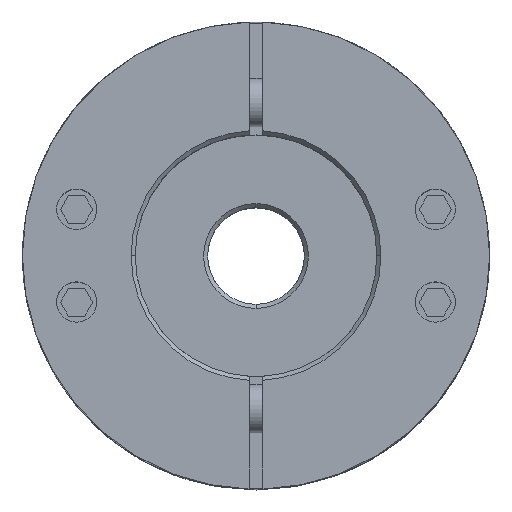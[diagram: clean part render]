
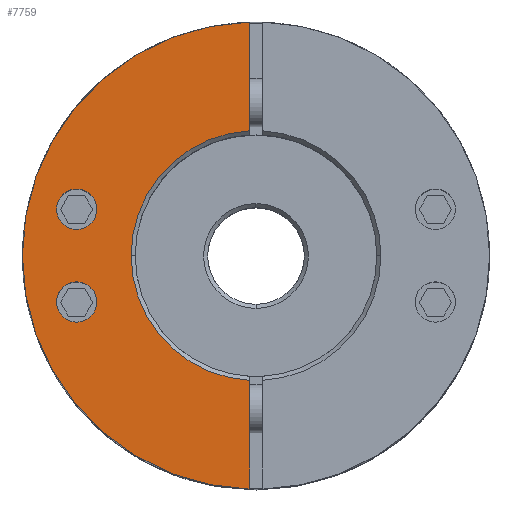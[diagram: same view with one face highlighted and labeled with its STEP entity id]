
A CAD part, top view. The second image highlights one B-rep face of the part: STEP entity #7759.
In plain terms, the highlighted planar face has unit normal (0, 0, 1).
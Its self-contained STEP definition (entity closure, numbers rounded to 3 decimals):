
#4373=CARTESIAN_POINT('',(-19.767,-5.759,27.125));
#4374=VERTEX_POINT('',#4373);
#4383=CARTESIAN_POINT('',(-24.767,-5.759,27.125));
#4384=VERTEX_POINT('',#4383);
#4385=CARTESIAN_POINT('',(-22.267,-5.759,27.125));
#4386=DIRECTION('',(0.0,0.0,-1.0));
#4387=DIRECTION('',(1.0,0.0,0.0));
#4388=AXIS2_PLACEMENT_3D('',#4385,#4386,#4387);
#4389=CIRCLE('',#4388,2.5);
#4390=EDGE_CURVE('',#4384,#4374,#4389,.T.);
#4499=CARTESIAN_POINT('',(-19.767,5.759,27.125));
#4500=VERTEX_POINT('',#4499);
#4509=CARTESIAN_POINT('',(-24.767,5.759,27.125));
#4510=VERTEX_POINT('',#4509);
#4511=CARTESIAN_POINT('',(-22.267,5.759,27.125));
#4512=DIRECTION('',(0.0,0.0,-1.0));
#4513=DIRECTION('',(1.0,0.0,0.0));
#4514=AXIS2_PLACEMENT_3D('',#4511,#4512,#4513);
#4515=CIRCLE('',#4514,2.5);
#4516=EDGE_CURVE('',#4510,#4500,#4515,.T.);
#4728=CARTESIAN_POINT('',(-29.0,0.,27.125));
#4729=VERTEX_POINT('',#4728);
#4736=CARTESIAN_POINT('',(-0.75,28.99,27.125));
#4737=VERTEX_POINT('',#4736);
#4738=CARTESIAN_POINT('',(0.0,0.0,27.125));
#4739=DIRECTION('',(0.0,0.0,-1.0));
#4740=DIRECTION('',(1.0,0.0,0.0));
#4741=AXIS2_PLACEMENT_3D('',#4738,#4739,#4740);
#4742=CIRCLE('',#4741,29.0);
#4743=EDGE_CURVE('',#4729,#4737,#4742,.T.);
#5090=CARTESIAN_POINT('',(-15.5,0.,27.125));
#5091=VERTEX_POINT('',#5090);
#5107=CARTESIAN_POINT('',(-0.75,15.482,27.125));
#5108=VERTEX_POINT('',#5107);
#5122=CARTESIAN_POINT('',(0.0,0.0,27.125));
#5123=DIRECTION('',(0.0,0.0,1.0));
#5124=DIRECTION('',(-1.0,0.0,0.0));
#5125=AXIS2_PLACEMENT_3D('',#5122,#5123,#5124);
#5126=CIRCLE('',#5125,15.5);
#5127=EDGE_CURVE('',#5108,#5091,#5126,.T.);
#7512=CARTESIAN_POINT('',(-0.75,-15.482,27.125));
#7513=VERTEX_POINT('',#7512);
#7514=CARTESIAN_POINT('',(0.0,0.0,27.125));
#7515=DIRECTION('',(0.0,0.0,1.0));
#7516=DIRECTION('',(-1.0,0.0,0.0));
#7517=AXIS2_PLACEMENT_3D('',#7514,#7515,#7516);
#7518=CIRCLE('',#7517,15.5);
#7519=EDGE_CURVE('',#5091,#7513,#7518,.T.);
#7552=CARTESIAN_POINT('',(-0.75,15.482,27.125));
#7553=DIRECTION('',(0.0,1.0,0.0));
#7554=VECTOR('',#7553,13.508);
#7555=LINE('',#7552,#7554);
#7556=EDGE_CURVE('',#5108,#4737,#7555,.T.);
#7666=CARTESIAN_POINT('',(-0.75,-28.99,27.125));
#7667=VERTEX_POINT('',#7666);
#7668=CARTESIAN_POINT('',(-0.75,-28.99,27.125));
#7669=DIRECTION('',(0.0,1.0,0.0));
#7670=VECTOR('',#7669,13.508);
#7671=LINE('',#7668,#7670);
#7672=EDGE_CURVE('',#7667,#7513,#7671,.T.);
#7720=CARTESIAN_POINT('',(2.636,0.,27.125));
#7721=DIRECTION('',(0.0,0.0,1.0));
#7722=DIRECTION('',(1.0,0.0,0.0));
#7723=AXIS2_PLACEMENT_3D('',#7720,#7721,#7722);
#7724=PLANE('',#7723);
#7725=ORIENTED_EDGE('',*,*,#5127,.F.);
#7726=ORIENTED_EDGE('',*,*,#7556,.T.);
#7727=ORIENTED_EDGE('',*,*,#4743,.F.);
#7728=CARTESIAN_POINT('',(0.0,0.0,27.125));
#7729=DIRECTION('',(0.0,0.0,-1.0));
#7730=DIRECTION('',(1.0,0.0,0.0));
#7731=AXIS2_PLACEMENT_3D('',#7728,#7729,#7730);
#7732=CIRCLE('',#7731,29.0);
#7733=EDGE_CURVE('',#7667,#4729,#7732,.T.);
#7734=ORIENTED_EDGE('',*,*,#7733,.F.);
#7735=ORIENTED_EDGE('',*,*,#7672,.T.);
#7736=ORIENTED_EDGE('',*,*,#7519,.F.);
#7737=EDGE_LOOP('',(#7725,#7726,#7727,#7734,#7735,#7736));
#7738=FACE_OUTER_BOUND('',#7737,.T.);
#7739=CARTESIAN_POINT('',(-22.267,-5.759,27.125));
#7740=DIRECTION('',(0.0,0.0,-1.0));
#7741=DIRECTION('',(1.0,0.0,0.0));
#7742=AXIS2_PLACEMENT_3D('',#7739,#7740,#7741);
#7743=CIRCLE('',#7742,2.5);
#7744=EDGE_CURVE('',#4374,#4384,#7743,.T.);
#7745=ORIENTED_EDGE('',*,*,#7744,.T.);
#7746=ORIENTED_EDGE('',*,*,#4390,.T.);
#7747=EDGE_LOOP('',(#7745,#7746));
#7748=FACE_BOUND('',#7747,.T.);
#7749=CARTESIAN_POINT('',(-22.267,5.759,27.125));
#7750=DIRECTION('',(0.0,0.0,-1.0));
#7751=DIRECTION('',(1.0,0.0,0.0));
#7752=AXIS2_PLACEMENT_3D('',#7749,#7750,#7751);
#7753=CIRCLE('',#7752,2.5);
#7754=EDGE_CURVE('',#4500,#4510,#7753,.T.);
#7755=ORIENTED_EDGE('',*,*,#7754,.T.);
#7756=ORIENTED_EDGE('',*,*,#4516,.T.);
#7757=EDGE_LOOP('',(#7755,#7756));
#7758=FACE_BOUND('',#7757,.T.);
#7759=ADVANCED_FACE('',(#7738,#7748,#7758),#7724,.T.);
